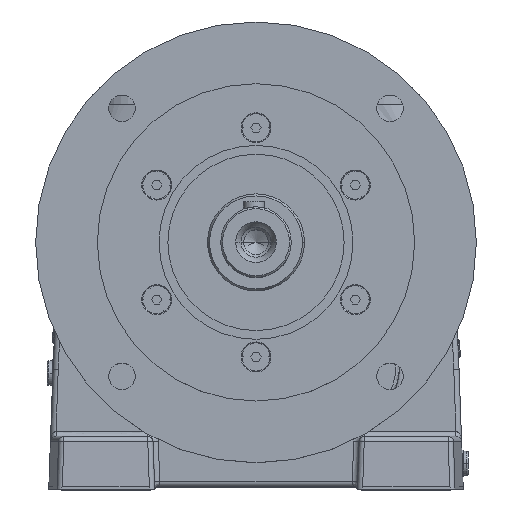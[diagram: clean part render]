
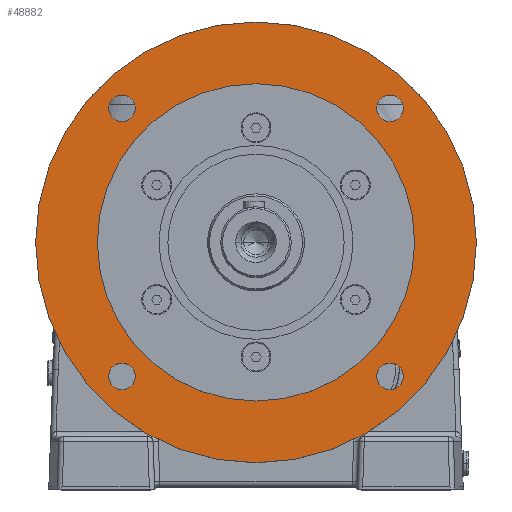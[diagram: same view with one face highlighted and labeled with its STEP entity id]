
A CAD part, top view. The second image highlights one B-rep face of the part: STEP entity #48882.
In plain terms, the highlighted planar face has unit normal (0, 0, 1).
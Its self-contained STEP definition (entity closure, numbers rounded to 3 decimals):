
#46994 = CARTESIAN_POINT ( 'NONE',  ( -68.514, -76.014, -5. ) ) ;
#47027 = CARTESIAN_POINT ( 'NONE',  ( -68.514, 76.014, -5. ) ) ;
#47028 = DIRECTION ( 'NONE',  ( 1., 0., 0. ) ) ;
#47029 = DIRECTION ( 'NONE',  ( 0., 0., 1. ) ) ;
#47030 = CARTESIAN_POINT ( 'NONE',  ( -76.014, 76.014, -5. ) ) ;
#47031 = AXIS2_PLACEMENT_3D ( 'NONE', #47030, #47029, #47028 ) ;
#47032 = CIRCLE ( 'NONE', #47031, 7.5 ) ;
#47033 = CARTESIAN_POINT ( 'NONE',  ( -83.514, 76.014, -5. ) ) ;
#47039 = CARTESIAN_POINT ( 'NONE',  ( 68.514, -76.014, -5. ) ) ;
#48188 = EDGE_CURVE ( 'NONE', #94501, #48189, #62287, .T. ) ;
#48189 = VERTEX_POINT ( 'NONE', #62277 ) ;
#48210 = VERTEX_POINT ( 'NONE', #62371 ) ;
#48212 = ORIENTED_EDGE ( 'NONE', *, *, #48815, .F. ) ;
#48255 = VERTEX_POINT ( 'NONE', #62412 ) ;
#48259 = EDGE_CURVE ( 'NONE', #48255, #94491, #62568, .T. ) ;
#48302 = VERTEX_POINT ( 'NONE', #62627 ) ;
#48306 = EDGE_CURVE ( 'NONE', #48302, #48308, #62621, .T. ) ;
#48308 = VERTEX_POINT ( 'NONE', #62612 ) ;
#48531 = EDGE_CURVE ( 'NONE', #48533, #48210, #63042, .T. ) ;
#48533 = VERTEX_POINT ( 'NONE', #63168 ) ;
#48546 = EDGE_CURVE ( 'NONE', #48548, #48550, #63244, .T. ) ;
#48548 = VERTEX_POINT ( 'NONE', #63238 ) ;
#48550 = VERTEX_POINT ( 'NONE', #63237 ) ;
#48710 = EDGE_LOOP ( 'NONE', ( #48712, #48715 ) ) ;
#48712 = ORIENTED_EDGE ( 'NONE', *, *, #48714, .F. ) ;
#48714 = EDGE_CURVE ( 'NONE', #48308, #48302, #63600, .T. ) ;
#48715 = ORIENTED_EDGE ( 'NONE', *, *, #48306, .F. ) ;
#48718 = EDGE_LOOP ( 'NONE', ( #48720, #48724 ) ) ;
#48720 = ORIENTED_EDGE ( 'NONE', *, *, #48722, .F. ) ;
#48722 = EDGE_CURVE ( 'NONE', #94508, #94505, #63588, .T. ) ;
#48724 = ORIENTED_EDGE ( 'NONE', *, *, #94507, .F. ) ;
#48727 = EDGE_LOOP ( 'NONE', ( #48845, #48849 ) ) ;
#48815 = EDGE_CURVE ( 'NONE', #48189, #94501, #63757, .T. ) ;
#48817 = ORIENTED_EDGE ( 'NONE', *, *, #48188, .F. ) ;
#48845 = ORIENTED_EDGE ( 'NONE', *, *, #48847, .F. ) ;
#48847 = EDGE_CURVE ( 'NONE', #94491, #48255, #63848, .T. ) ;
#48849 = ORIENTED_EDGE ( 'NONE', *, *, #48259, .F. ) ;
#48852 = EDGE_LOOP ( 'NONE', ( #48854, #48856 ) ) ;
#48854 = ORIENTED_EDGE ( 'NONE', *, *, #48531, .T. ) ;
#48856 = ORIENTED_EDGE ( 'NONE', *, *, #48858, .T. ) ;
#48858 = EDGE_CURVE ( 'NONE', #48210, #48533, #63836, .T. ) ;
#48861 = EDGE_LOOP ( 'NONE', ( #48863, #48865 ) ) ;
#48863 = ORIENTED_EDGE ( 'NONE', *, *, #48546, .F. ) ;
#48865 = ORIENTED_EDGE ( 'NONE', *, *, #48867, .F. ) ;
#48867 = EDGE_CURVE ( 'NONE', #48550, #48548, #63824, .T. ) ;
#48871 = EDGE_LOOP ( 'NONE', ( #48212, #48817 ) ) ;
#48882 = ADVANCED_FACE ( 'NONE', ( #63802, #63800, #63798, #63796, #63794, #63793 ), #63912, .F. ) ;
#62277 = CARTESIAN_POINT ( 'NONE',  ( 83.514, -76.014, -5. ) ) ;
#62279 = DIRECTION ( 'NONE',  ( 1., 0., 0. ) ) ;
#62281 = DIRECTION ( 'NONE',  ( 0., 0., 1. ) ) ;
#62283 = CARTESIAN_POINT ( 'NONE',  ( 76.014, -76.014, -5. ) ) ;
#62285 = AXIS2_PLACEMENT_3D ( 'NONE', #62283, #62281, #62279 ) ;
#62287 = CIRCLE ( 'NONE', #62285, 7.5 ) ;
#62371 = CARTESIAN_POINT ( 'NONE',  ( -125., 0., -5. ) ) ;
#62412 = CARTESIAN_POINT ( 'NONE',  ( -83.514, -76.014, -5. ) ) ;
#62561 = DIRECTION ( 'NONE',  ( 1., 0., 0. ) ) ;
#62563 = DIRECTION ( 'NONE',  ( 0., 0., 1. ) ) ;
#62565 = CARTESIAN_POINT ( 'NONE',  ( -76.014, -76.014, -5. ) ) ;
#62566 = AXIS2_PLACEMENT_3D ( 'NONE', #62565, #62563, #62561 ) ;
#62568 = CIRCLE ( 'NONE', #62566, 7.5 ) ;
#62612 = CARTESIAN_POINT ( 'NONE',  ( 83.514, 76.014, -5. ) ) ;
#62614 = DIRECTION ( 'NONE',  ( 1., 0., 0. ) ) ;
#62616 = DIRECTION ( 'NONE',  ( 0., 0., 1. ) ) ;
#62618 = CARTESIAN_POINT ( 'NONE',  ( 76.014, 76.014, -5. ) ) ;
#62619 = AXIS2_PLACEMENT_3D ( 'NONE', #62618, #62616, #62614 ) ;
#62621 = CIRCLE ( 'NONE', #62619, 7.5 ) ;
#62627 = CARTESIAN_POINT ( 'NONE',  ( 68.514, 76.014, -5. ) ) ;
#63042 = CIRCLE ( 'NONE', #63176, 125. ) ;
#63168 = CARTESIAN_POINT ( 'NONE',  ( 125., 0., -5. ) ) ;
#63170 = DIRECTION ( 'NONE',  ( 1., 0., 0. ) ) ;
#63172 = DIRECTION ( 'NONE',  ( 0., 0., 1. ) ) ;
#63174 = CARTESIAN_POINT ( 'NONE',  ( 0., 0., -5. ) ) ;
#63176 = AXIS2_PLACEMENT_3D ( 'NONE', #63174, #63172, #63170 ) ;
#63237 = CARTESIAN_POINT ( 'NONE',  ( -90., 0., -5. ) ) ;
#63238 = CARTESIAN_POINT ( 'NONE',  ( 90., 0., -5. ) ) ;
#63240 = DIRECTION ( 'NONE',  ( 1., 0., 0. ) ) ;
#63241 = DIRECTION ( 'NONE',  ( 0., 0., 1. ) ) ;
#63243 = AXIS2_PLACEMENT_3D ( 'NONE', #63253, #63241, #63240 ) ;
#63244 = CIRCLE ( 'NONE', #63243, 90. ) ;
#63253 = CARTESIAN_POINT ( 'NONE',  ( 0., 0., -5. ) ) ;
#63581 = DIRECTION ( 'NONE',  ( 1., 0., 0. ) ) ;
#63583 = DIRECTION ( 'NONE',  ( 0., 0., 1. ) ) ;
#63585 = CARTESIAN_POINT ( 'NONE',  ( -76.014, 76.014, -5. ) ) ;
#63586 = AXIS2_PLACEMENT_3D ( 'NONE', #63585, #63583, #63581 ) ;
#63588 = CIRCLE ( 'NONE', #63586, 7.5 ) ;
#63594 = DIRECTION ( 'NONE',  ( 1., 0., 0. ) ) ;
#63595 = DIRECTION ( 'NONE',  ( 0., 0., 1. ) ) ;
#63596 = CARTESIAN_POINT ( 'NONE',  ( 76.014, 76.014, -5. ) ) ;
#63598 = AXIS2_PLACEMENT_3D ( 'NONE', #63596, #63595, #63594 ) ;
#63600 = CIRCLE ( 'NONE', #63598, 7.5 ) ;
#63683 = CARTESIAN_POINT ( 'NONE',  ( 0., 0., -5. ) ) ;
#63749 = DIRECTION ( 'NONE',  ( 1., 0., 0. ) ) ;
#63751 = DIRECTION ( 'NONE',  ( 0., 0., 1. ) ) ;
#63753 = CARTESIAN_POINT ( 'NONE',  ( 76.014, -76.014, -5. ) ) ;
#63755 = AXIS2_PLACEMENT_3D ( 'NONE', #63753, #63751, #63749 ) ;
#63757 = CIRCLE ( 'NONE', #63755, 7.5 ) ;
#63793 = FACE_BOUND ( 'NONE', #48871, .T. ) ;
#63794 = FACE_BOUND ( 'NONE', #48861, .T. ) ;
#63796 = FACE_OUTER_BOUND ( 'NONE', #48852, .T. ) ;
#63798 = FACE_BOUND ( 'NONE', #48727, .T. ) ;
#63800 = FACE_BOUND ( 'NONE', #48718, .T. ) ;
#63802 = FACE_BOUND ( 'NONE', #48710, .T. ) ;
#63817 = DIRECTION ( 'NONE',  ( 1., 0., 0. ) ) ;
#63819 = DIRECTION ( 'NONE',  ( 0., 0., 1. ) ) ;
#63821 = CARTESIAN_POINT ( 'NONE',  ( 0., 0., -5. ) ) ;
#63822 = AXIS2_PLACEMENT_3D ( 'NONE', #63821, #63819, #63817 ) ;
#63824 = CIRCLE ( 'NONE', #63822, 90. ) ;
#63830 = DIRECTION ( 'NONE',  ( 1., 0., 0. ) ) ;
#63832 = DIRECTION ( 'NONE',  ( 0., 0., 1. ) ) ;
#63834 = AXIS2_PLACEMENT_3D ( 'NONE', #63683, #63832, #63830 ) ;
#63836 = CIRCLE ( 'NONE', #63834, 125. ) ;
#63840 = DIRECTION ( 'NONE',  ( 1., 0., 0. ) ) ;
#63842 = DIRECTION ( 'NONE',  ( 0., 0., 1. ) ) ;
#63844 = CARTESIAN_POINT ( 'NONE',  ( -76.014, -76.014, -5. ) ) ;
#63846 = AXIS2_PLACEMENT_3D ( 'NONE', #63844, #63842, #63840 ) ;
#63848 = CIRCLE ( 'NONE', #63846, 7.5 ) ;
#63901 = DIRECTION ( 'NONE',  ( -1., 0., 0. ) ) ;
#63903 = DIRECTION ( 'NONE',  ( 0., 0., -1. ) ) ;
#63905 = CARTESIAN_POINT ( 'NONE',  ( 0., 90., -5. ) ) ;
#63907 = AXIS2_PLACEMENT_3D ( 'NONE', #63905, #63903, #63901 ) ;
#63912 = PLANE ( 'NONE',  #63907 ) ;
#94491 = VERTEX_POINT ( 'NONE', #46994 ) ;
#94501 = VERTEX_POINT ( 'NONE', #47039 ) ;
#94505 = VERTEX_POINT ( 'NONE', #47033 ) ;
#94507 = EDGE_CURVE ( 'NONE', #94505, #94508, #47032, .T. ) ;
#94508 = VERTEX_POINT ( 'NONE', #47027 ) ;
